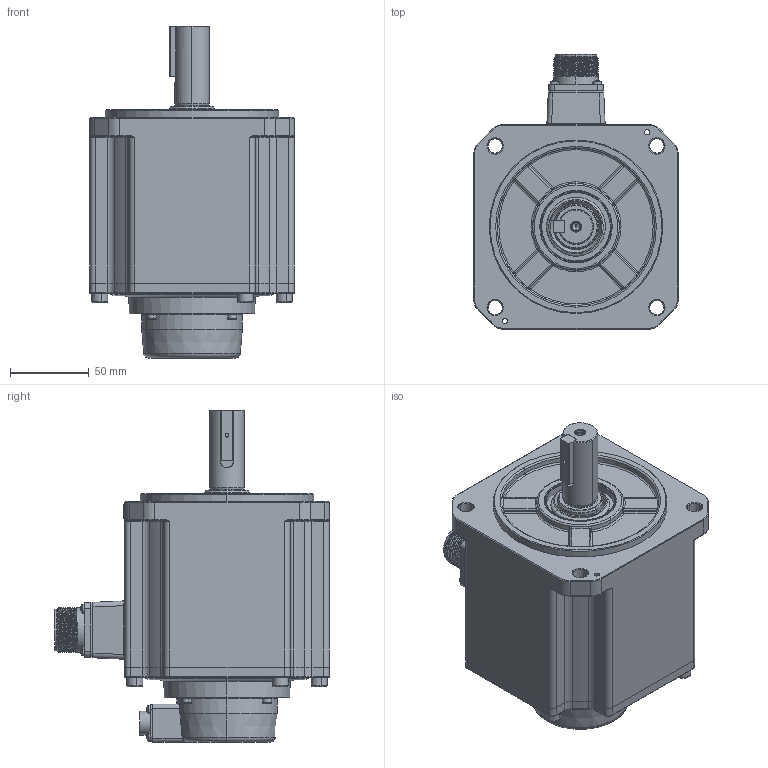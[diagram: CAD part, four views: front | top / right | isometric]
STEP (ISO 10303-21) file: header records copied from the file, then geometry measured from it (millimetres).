
FILE_DESCRIPTION (( 'STEP AP214' ), '1' );
FILE_NAME ('RSA1-M-130-1.3kw.STEP', '2024-08-12T02:11:12', ( '' ), ( '' ), 'SwSTEP 2.0', 'SolidWorks 2020', '' );
FILE_SCHEMA (( 'AUTOMOTIVE_DESIGN' ));
Length unit declared in the file: millimetre
Products named in the file (14): 130-蚐猾_TC30x45x8(NBR); 坋趼羞攫芛蹟隊_M3x30; 130-笢嫦講-粣噤22; 130梓袧綴裔; 雄薯瑤脣; ﾊｮﾗﾖｲﾛﾅﾌﾍｷﾗﾔｼｷﾂﾝｶ､_M3x8; 130-M-1.3kw儂褲; す瑩_B8x7x32; 内六角圆柱头螺钉_M6x20; 130-梓袧綴傷裔; 130雄薯瑤脣價釱; 内六角圆柱头和平垫圈组合螺钉_M3x16; RSA1-M-130-1.3kw; 4140000005_电机内部编码器线_7x26AWG(0.1m-CMV1-10芯螺纹插座_GACJ3045)
Assembly tree (25 placements, depth 2):
  RSA1-M-130-1.3kw
    130-M-1.3kw儂褲
    130雄薯瑤脣價釱
    130-笢嫦講-粣噤22
    雄薯瑤脣
    130-蚐猾_TC30x45x8(NBR)
    130-梓袧綴傷裔
    130梓袧綴裔
    4140000005_电机内部编码器线_7x26AWG(0.1m-CMV1-10芯螺纹插座_GACJ3045)
    内六角圆柱头螺钉_M6x20  x4
    内六角圆柱头和平垫圈组合螺钉_M3x16  x4
    坋趼羞攫芛蹟隊_M3x30  x4
    ﾊｮﾗﾖｲﾛﾅﾌﾍｷﾗﾔｼｷﾂﾝｶ､_M3x8  x4
    す瑩_B8x7x32
Bounding box: 130 x 174.4 x 210.6 mm (x, y, z)
Volume: 1895557.6 mm3; surface area: 189191.4 mm2
Topology: 36 solids, 36 shells, 2555 faces, 6364 edges, 3965 vertices
Faces by surface type: plane 1234, cylinder 640, cone 302, torus 188, bspline 131, sphere 60
Entity records: 93346 total; most frequent: CARTESIAN_POINT 24235, DIRECTION 11096, ORIENTED_EDGE 11044, EDGE_CURVE 5522, AXIS2_PLACEMENT_3D 3897, VERTEX_POINT 3479, LINE 3302, VECTOR 3302
